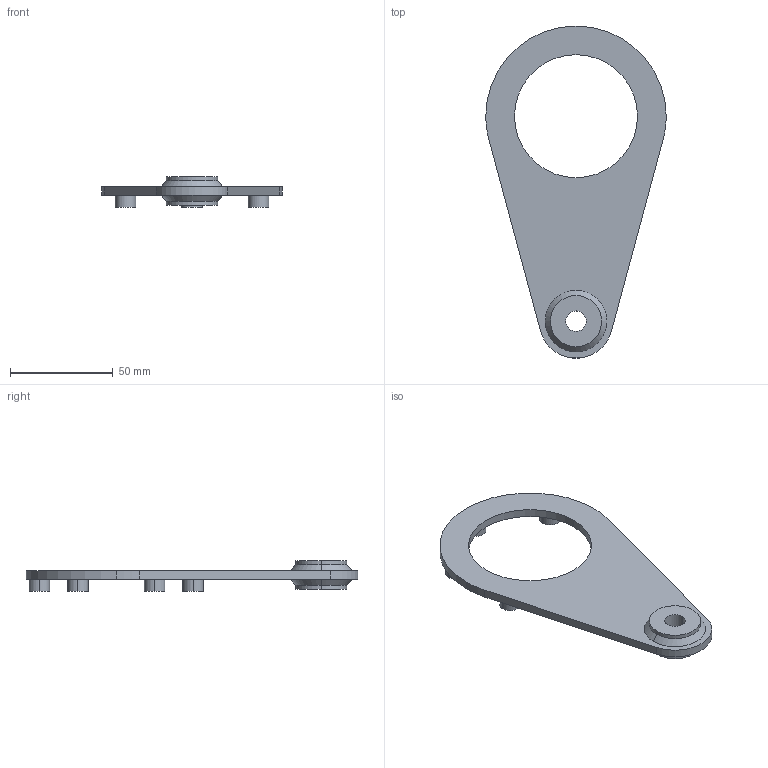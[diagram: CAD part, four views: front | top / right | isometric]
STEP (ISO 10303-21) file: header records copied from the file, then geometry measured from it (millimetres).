
FILE_DESCRIPTION (( 'STEP AP214' ), '1' );
FILE_NAME ('Drehmomentstütze_CMRV040.STEP', '2018-04-23T11:10:01', ( '' ), ( '' ), 'SwSTEP 2.0', 'SolidWorks 2012', '' );
FILE_SCHEMA (( 'AUTOMOTIVE_DESIGN' ));
Length unit declared in the file: millimetre
Products named in the file (1): Drehmomentstütze_CMRV040
Bounding box: 88 x 161.93 x 15 mm (x, y, z)
Volume: 35798.3 mm3; surface area: 18597.6 mm2
Topology: 1 solids, 1 shells, 40 faces, 86 edges, 56 vertices
Faces by surface type: cylinder 24, plane 12, cone 4
Entity records: 1592 total; most frequent: DIRECTION 220, CARTESIAN_POINT 183, ORIENTED_EDGE 172, AXIS2_PLACEMENT_3D 93, EDGE_CURVE 86, VERTEX_POINT 56, CIRCLE 52, EDGE_LOOP 52
